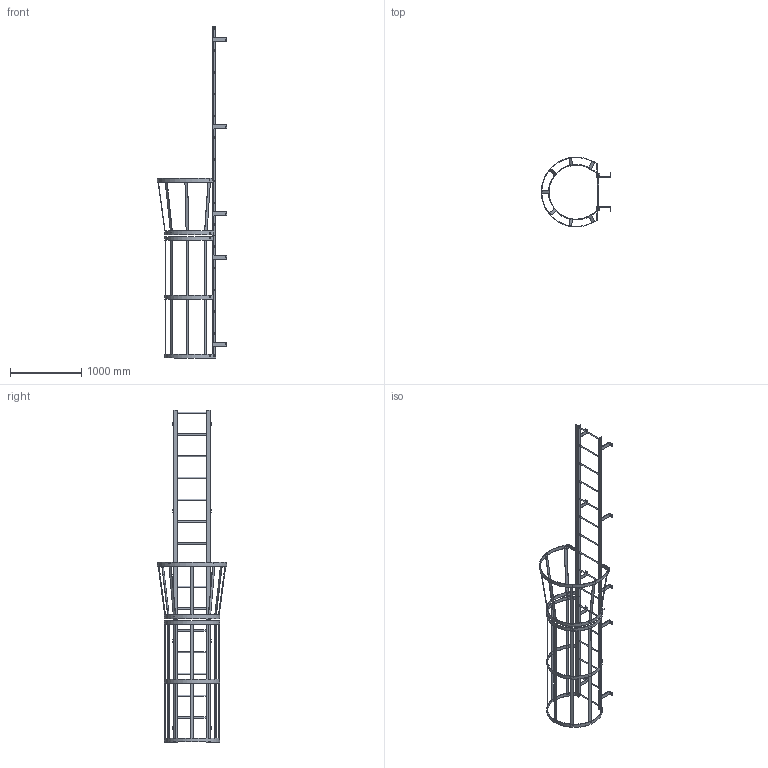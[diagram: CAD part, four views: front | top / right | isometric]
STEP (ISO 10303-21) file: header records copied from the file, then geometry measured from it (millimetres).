
FILE_DESCRIPTION(/* description */ (''),/* implementation_level */ '2;1');
FILE_NAME(/* name */ 'P:\MIKEL & KAREN\D0570195-02 F16SC SIMPLIFIED PART.stp',/* time_stamp */ '2018-07-03T08:03:28-04:00',/* author */ ('stephanie'),/* organization */ (''),/* preprocessor_version */ 'ST-DEVELOPER v16.1',/* originating_system */ 'Autodesk Inventor 2016',/* authorisation */ '');
FILE_SCHEMA (('AUTOMOTIVE_DESIGN { 1 0 10303 214 3 1 1 }'));
Length unit declared in the file: centimetre
Products named in the file (1): D0570195-02 F16SC SIMPLIFIED PART
Bounding box: 973.37 x 977.88 x 4648.2 mm (x, y, z)
Volume: 14819240.2 mm3; surface area: 5074742.9 mm2
Topology: 24 solids, 24 shells, 519 faces, 1543 edges, 1004 vertices
Faces by surface type: plane 360, cylinder 159
Full cylindrical faces by diameter (mm): 14.287 x12, 19.05 x16, 22.225 x32
Entity records: 17591 total; most frequent: ORIENTED_EDGE 2962, CARTESIAN_POINT 2919, DIRECTION 2897, EDGE_CURVE 1439, LINE 1021, VECTOR 1021, VERTEX_POINT 960, AXIS2_PLACEMENT_3D 938
